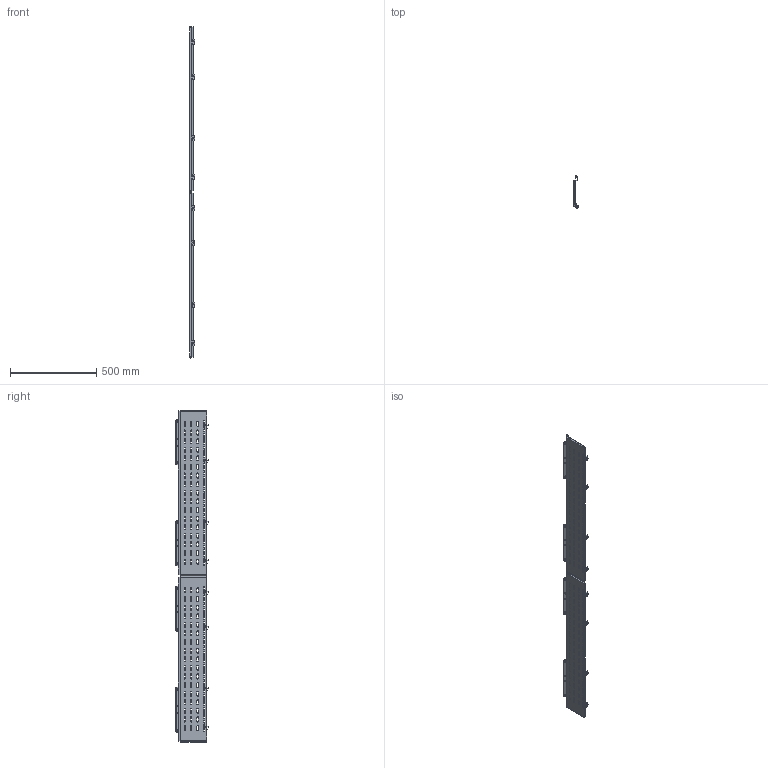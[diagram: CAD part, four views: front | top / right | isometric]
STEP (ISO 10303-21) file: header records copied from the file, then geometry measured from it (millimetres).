
FILE_DESCRIPTION (( 'STEP AP214' ), '1' );
FILE_NAME ('FO-00-SWBF-020-200 Ïåðåãîðîäêà ñåêöèîíèðîâàíèÿ âñòðîåííîãî îòñåêà çàäíÿÿ 200õ2000 ìì.STEP', '2025-08-13T08:08:39', ( '' ), ( '' ), 'SwSTEP 2.0', 'SolidWorks 2023', '' );
FILE_SCHEMA (( 'AUTOMOTIVE_DESIGN' ));
Length unit declared in the file: millimetre
Products named in the file (4): Перегородка секционирования встроенного отсека задняя 200x2000 мм F; Уголок; FO-00-SWBF-020-200 Перегородка секционирования встроенного отсека задняя 200х2000 мм; Перегородка секционирования встроенного отсека задняя 200х2000 мм
Assembly tree (7 placements, depth 3):
  FO-00-SWBF-020-200 Перегородка секционирования встроенного отсека задняя 200х2000 мм
    Перегородка секционирования встроенного отсека задняя 200х2000 мм  x2
      Перегородка секционирования встроенного отсека задняя 200x2000 мм F
      Уголок
Bounding box: 30.51 x 188.1 x 1929.44 mm (x, y, z)
Volume: 556060.3 mm3; surface area: 751491 mm2
Topology: 10 solids, 10 shells, 1910 faces, 5314 edges, 3488 vertices
Faces by surface type: cylinder 1030, plane 720, torus 64, cone 64, sphere 32
Entity records: 23750 total; most frequent: CARTESIAN_POINT 4376, DIRECTION 4096, ORIENTED_EDGE 4012, EDGE_CURVE 2006, AXIS2_PLACEMENT_3D 1464, VERTEX_POINT 1324, VECTOR 1168, LINE 1168
